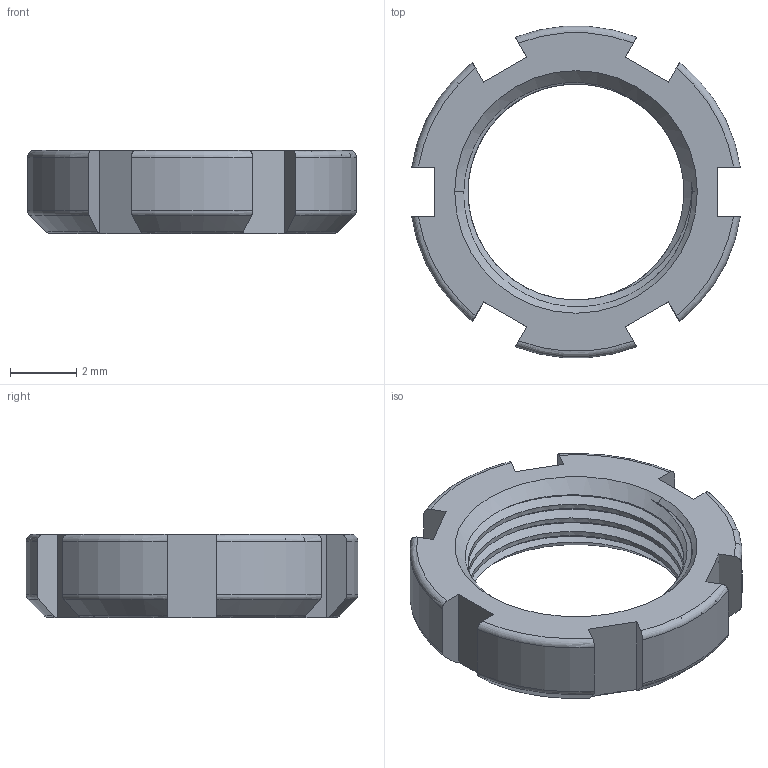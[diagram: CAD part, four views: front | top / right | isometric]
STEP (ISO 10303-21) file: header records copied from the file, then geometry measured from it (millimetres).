
FILE_DESCRIPTION((''),'2;1');
FILE_NAME('00155436','2020-10-29T07:11:24',('EUnterhaslberger'),(''),'CREO PARAMETRIC BY PTC INC, 2018300','CREO PARAMETRIC BY PTC INC, 2018300','');
FILE_SCHEMA(('AP242_MANAGED_MODEL_BASED_3D_ENGINEERING_MIM_LF { 1 0 10303 442 1 1 4 }'));
Length unit declared in the file: millimetre
Products named in the file (1): 00155436
Bounding box: 9.89 x 9.97 x 2.5 mm (x, y, z)
Volume: 85.3 mm3; surface area: 229.6 mm2
Topology: 1 solids, 1 shells, 78 faces, 215 edges, 140 vertices
Faces by surface type: plane 27, torus 18, cylinder 17, cone 10, bspline 6
Entity records: 4948 total; most frequent: CARTESIAN_POINT 2317, ORIENTED_EDGE 430, DIRECTION 343, PRESENTATION_STYLE_ASSIGNMENT 217, STYLED_ITEM 216, CURVE_STYLE 215, EDGE_CURVE 215, VERTEX_POINT 140
